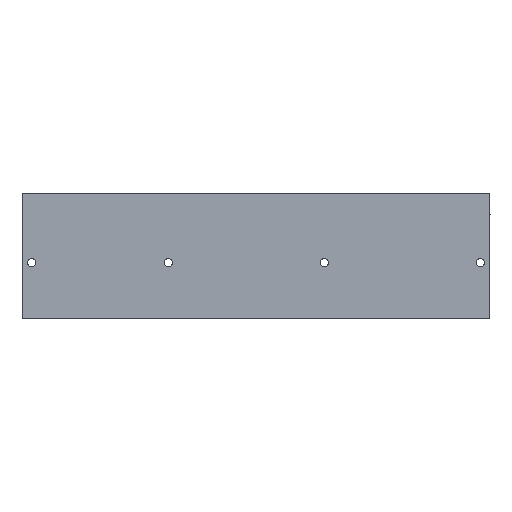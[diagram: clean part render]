
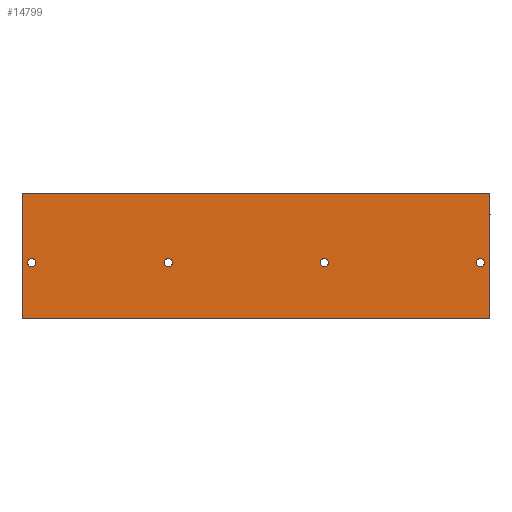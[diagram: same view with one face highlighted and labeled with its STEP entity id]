
A CAD part, front view. The second image highlights one B-rep face of the part: STEP entity #14799.
In plain terms, the highlighted planar face has unit normal (0, -1, 0).
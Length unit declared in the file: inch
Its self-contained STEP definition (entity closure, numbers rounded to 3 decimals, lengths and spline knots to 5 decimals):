
#16 = CARTESIAN_POINT ( 'NONE',  ( 19.5, 0., 0. ) ) ;
#35 = CIRCLE ( 'NONE', #23836, 0.172 ) ;
#49 = DIRECTION ( 'NONE',  ( 0., 1., 0. ) ) ;
#309 = VECTOR ( 'NONE', #16468, 39.37008 ) ;
#603 = VECTOR ( 'NONE', #17719, 39.37008 ) ;
#906 = DIRECTION ( 'NONE',  ( 0., 1., 0. ) ) ;
#1246 = AXIS2_PLACEMENT_3D ( 'NONE', #1722, #15795, #3764 ) ;
#1609 = DIRECTION ( 'NONE',  ( 0., 0., 1. ) ) ;
#1722 = CARTESIAN_POINT ( 'NONE',  ( 19.1, 0., -2.9 ) ) ;
#1750 = ORIENTED_EDGE ( 'NONE', *, *, #6724, .T. ) ;
#2035 = DIRECTION ( 'NONE',  ( 0., 1., 0. ) ) ;
#2129 = CARTESIAN_POINT ( 'NONE',  ( 19.1, 0., -2.9 ) ) ;
#2366 = ORIENTED_EDGE ( 'NONE', *, *, #8438, .F. ) ;
#2397 = ORIENTED_EDGE ( 'NONE', *, *, #7632, .T. ) ;
#2643 = EDGE_LOOP ( 'NONE', ( #11027, #4964 ) ) ;
#2648 = CARTESIAN_POINT ( 'NONE',  ( 12.6, 0., -2.728 ) ) ;
#2714 = VERTEX_POINT ( 'NONE', #9541 ) ;
#2800 = VERTEX_POINT ( 'NONE', #7061 ) ;
#3347 = ORIENTED_EDGE ( 'NONE', *, *, #19324, .T. ) ;
#3462 = VECTOR ( 'NONE', #23112, 39.37008 ) ;
#3764 = DIRECTION ( 'NONE',  ( 0., 0., 1. ) ) ;
#4301 = ORIENTED_EDGE ( 'NONE', *, *, #8392, .F. ) ;
#4964 = ORIENTED_EDGE ( 'NONE', *, *, #19215, .T. ) ;
#5234 = VERTEX_POINT ( 'NONE', #18261 ) ;
#5367 = CARTESIAN_POINT ( 'NONE',  ( 0.4, 0., -2.9 ) ) ;
#5377 = CARTESIAN_POINT ( 'NONE',  ( 0.4, 0., -2.728 ) ) ;
#5680 = AXIS2_PLACEMENT_3D ( 'NONE', #2129, #2035, #1609 ) ;
#5699 = LINE ( 'NONE', #19936, #309 ) ;
#5730 = FACE_BOUND ( 'NONE', #20071, .T. ) ;
#5819 = AXIS2_PLACEMENT_3D ( 'NONE', #17553, #17379, #17041 ) ;
#6006 = LINE ( 'NONE', #24127, #603 ) ;
#6067 = PLANE ( 'NONE',  #9576 ) ;
#6296 = AXIS2_PLACEMENT_3D ( 'NONE', #10955, #10872, #10790 ) ;
#6310 = CIRCLE ( 'NONE', #5819, 0.172 ) ;
#6549 = AXIS2_PLACEMENT_3D ( 'NONE', #21385, #21304, #21213 ) ;
#6636 = CIRCLE ( 'NONE', #6296, 0.172 ) ;
#6724 = EDGE_CURVE ( 'NONE', #24655, #2714, #19359, .T. ) ;
#7061 = CARTESIAN_POINT ( 'NONE',  ( 0.4, 0., -3.072 ) ) ;
#7420 = DIRECTION ( 'NONE',  ( 0., 0., 1. ) ) ;
#7468 = EDGE_CURVE ( 'NONE', #23088, #8062, #10457, .T. ) ;
#7632 = EDGE_CURVE ( 'NONE', #10555, #24830, #6636, .T. ) ;
#7903 = EDGE_CURVE ( 'NONE', #14465, #2800, #6310, .T. ) ;
#7940 = VECTOR ( 'NONE', #25363, 39.37008 ) ;
#7978 = EDGE_CURVE ( 'NONE', #5234, #19581, #19019, .T. ) ;
#8062 = VERTEX_POINT ( 'NONE', #11788 ) ;
#8202 = EDGE_CURVE ( 'NONE', #2714, #17734, #5699, .T. ) ;
#8392 = EDGE_CURVE ( 'NONE', #16541, #17734, #12658, .T. ) ;
#8438 = EDGE_CURVE ( 'NONE', #24655, #16541, #6006, .T. ) ;
#8828 = DIRECTION ( 'NONE',  ( 0., 1., 0. ) ) ;
#9541 = CARTESIAN_POINT ( 'NONE',  ( 0., 0., 0. ) ) ;
#9576 = AXIS2_PLACEMENT_3D ( 'NONE', #10168, #49, #14199 ) ;
#10168 = CARTESIAN_POINT ( 'NONE',  ( 19.5, 0., 0. ) ) ;
#10256 = CARTESIAN_POINT ( 'NONE',  ( 6.1, 0., -2.728 ) ) ;
#10357 = ORIENTED_EDGE ( 'NONE', *, *, #8202, .T. ) ;
#10457 = CIRCLE ( 'NONE', #6549, 0.172 ) ;
#10522 = FACE_OUTER_BOUND ( 'NONE', #21279, .T. ) ;
#10555 = VERTEX_POINT ( 'NONE', #2648 ) ;
#10790 = DIRECTION ( 'NONE',  ( 0., 0., 1. ) ) ;
#10851 = CARTESIAN_POINT ( 'NONE',  ( 12.6, 0., -3.072 ) ) ;
#10872 = DIRECTION ( 'NONE',  ( 0., 1., 0. ) ) ;
#10955 = CARTESIAN_POINT ( 'NONE',  ( 12.6, 0., -2.9 ) ) ;
#11027 = ORIENTED_EDGE ( 'NONE', *, *, #7468, .T. ) ;
#11788 = CARTESIAN_POINT ( 'NONE',  ( 6.1, 0., -3.072 ) ) ;
#12358 = CARTESIAN_POINT ( 'NONE',  ( 19.5, 0., -5.25 ) ) ;
#12658 = LINE ( 'NONE', #25187, #7940 ) ;
#12874 = ORIENTED_EDGE ( 'NONE', *, *, #7978, .T. ) ;
#13019 = CARTESIAN_POINT ( 'NONE',  ( 19.1, 0., -3.072 ) ) ;
#13054 = CARTESIAN_POINT ( 'NONE',  ( 6.1, 0., -2.9 ) ) ;
#13912 = CARTESIAN_POINT ( 'NONE',  ( 19.5, 0., 0. ) ) ;
#14199 = DIRECTION ( 'NONE',  ( 0., 0., 1. ) ) ;
#14356 = EDGE_LOOP ( 'NONE', ( #12874, #21332 ) ) ;
#14465 = VERTEX_POINT ( 'NONE', #5377 ) ;
#14799 = ADVANCED_FACE ( 'NONE', ( #15759, #5730, #16368, #20859, #10522 ), #6067, .F. ) ;
#15032 = DIRECTION ( 'NONE',  ( 0., 0., 1. ) ) ;
#15141 = CARTESIAN_POINT ( 'NONE',  ( 0., 0., -5.25 ) ) ;
#15679 = CIRCLE ( 'NONE', #24591, 0.172 ) ;
#15759 = FACE_BOUND ( 'NONE', #2643, .T. ) ;
#15795 = DIRECTION ( 'NONE',  ( 0., 1., 0. ) ) ;
#16254 = AXIS2_PLACEMENT_3D ( 'NONE', #13054, #906, #15032 ) ;
#16301 = CIRCLE ( 'NONE', #1246, 0.172 ) ;
#16368 = FACE_BOUND ( 'NONE', #22505, .T. ) ;
#16468 = DIRECTION ( 'NONE',  ( 0., 0., -1. ) ) ;
#16541 = VERTEX_POINT ( 'NONE', #12358 ) ;
#17041 = DIRECTION ( 'NONE',  ( 0., 0., 1. ) ) ;
#17144 = ORIENTED_EDGE ( 'NONE', *, *, #20887, .T. ) ;
#17379 = DIRECTION ( 'NONE',  ( 0., 1., 0. ) ) ;
#17553 = CARTESIAN_POINT ( 'NONE',  ( 0.4, 0., -2.9 ) ) ;
#17719 = DIRECTION ( 'NONE',  ( 0., 0., -1. ) ) ;
#17734 = VERTEX_POINT ( 'NONE', #15141 ) ;
#18261 = CARTESIAN_POINT ( 'NONE',  ( 19.1, 0., -2.728 ) ) ;
#19019 = CIRCLE ( 'NONE', #5680, 0.172 ) ;
#19215 = EDGE_CURVE ( 'NONE', #8062, #23088, #22410, .T. ) ;
#19241 = DIRECTION ( 'NONE',  ( 0., 1., 0. ) ) ;
#19324 = EDGE_CURVE ( 'NONE', #2800, #14465, #35, .T. ) ;
#19359 = LINE ( 'NONE', #16, #3462 ) ;
#19581 = VERTEX_POINT ( 'NONE', #13019 ) ;
#19853 = ORIENTED_EDGE ( 'NONE', *, *, #7903, .T. ) ;
#19936 = CARTESIAN_POINT ( 'NONE',  ( 0., 0., 0. ) ) ;
#20071 = EDGE_LOOP ( 'NONE', ( #2397, #17144 ) ) ;
#20277 = EDGE_CURVE ( 'NONE', #19581, #5234, #16301, .T. ) ;
#20555 = CARTESIAN_POINT ( 'NONE',  ( 12.6, 0., -2.9 ) ) ;
#20859 = FACE_BOUND ( 'NONE', #14356, .T. ) ;
#20887 = EDGE_CURVE ( 'NONE', #24830, #10555, #15679, .T. ) ;
#21213 = DIRECTION ( 'NONE',  ( 0., 0., 1. ) ) ;
#21279 = EDGE_LOOP ( 'NONE', ( #10357, #4301, #2366, #1750 ) ) ;
#21304 = DIRECTION ( 'NONE',  ( 0., 1., 0. ) ) ;
#21332 = ORIENTED_EDGE ( 'NONE', *, *, #20277, .T. ) ;
#21385 = CARTESIAN_POINT ( 'NONE',  ( 6.1, 0., -2.9 ) ) ;
#22410 = CIRCLE ( 'NONE', #16254, 0.172 ) ;
#22505 = EDGE_LOOP ( 'NONE', ( #19853, #3347 ) ) ;
#22515 = DIRECTION ( 'NONE',  ( 0., 0., 1. ) ) ;
#23088 = VERTEX_POINT ( 'NONE', #10256 ) ;
#23112 = DIRECTION ( 'NONE',  ( -1., 0., 0. ) ) ;
#23836 = AXIS2_PLACEMENT_3D ( 'NONE', #5367, #19241, #7420 ) ;
#24127 = CARTESIAN_POINT ( 'NONE',  ( 19.5, 0., 0. ) ) ;
#24591 = AXIS2_PLACEMENT_3D ( 'NONE', #20555, #8828, #22515 ) ;
#24655 = VERTEX_POINT ( 'NONE', #13912 ) ;
#24830 = VERTEX_POINT ( 'NONE', #10851 ) ;
#25187 = CARTESIAN_POINT ( 'NONE',  ( 19.5, 0., -5.25 ) ) ;
#25363 = DIRECTION ( 'NONE',  ( -1., 0., 0. ) ) ;
